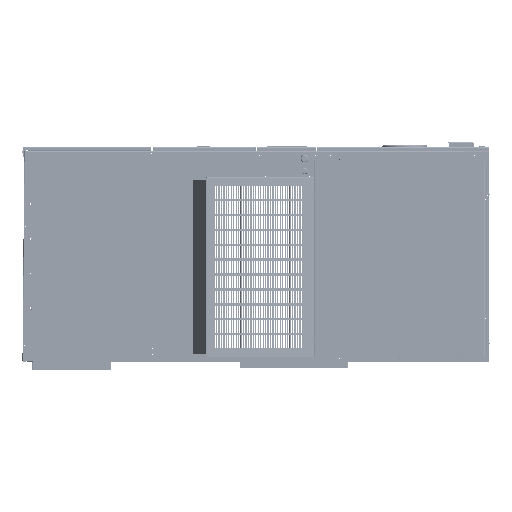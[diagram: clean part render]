
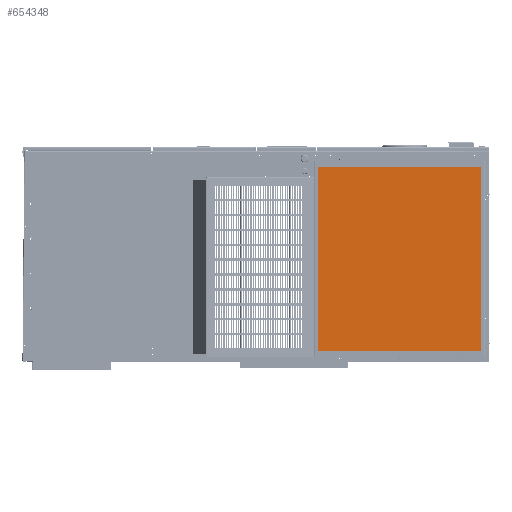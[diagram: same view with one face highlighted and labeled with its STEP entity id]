
A CAD part, left-side view. The second image highlights one B-rep face of the part: STEP entity #654348.
In plain terms, the highlighted planar face has unit normal (-1, 0, 0).
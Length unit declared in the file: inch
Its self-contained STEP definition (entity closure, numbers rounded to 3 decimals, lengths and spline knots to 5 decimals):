
#15878 = LINE ( 'NONE', #276098, #600855 ) ;
#37820 = ORIENTED_EDGE ( 'NONE', *, *, #840509, .T. ) ;
#43501 = VERTEX_POINT ( 'NONE', #778807 ) ;
#56737 = LINE ( 'NONE', #840631, #808231 ) ;
#60510 = VECTOR ( 'NONE', #170784, 39.37008 ) ;
#84921 = VERTEX_POINT ( 'NONE', #692544 ) ;
#90725 = CARTESIAN_POINT ( 'NONE',  ( -25.4955, 1.03785, 17.46232 ) ) ;
#109233 = DIRECTION ( 'NONE',  ( 0., 1., 0. ) ) ;
#119361 = DIRECTION ( 'NONE',  ( -1., 0., 0. ) ) ;
#131261 = AXIS2_PLACEMENT_3D ( 'NONE', #387804, #119361, #507146 ) ;
#143359 = EDGE_CURVE ( 'NONE', #326046, #84921, #56737, .T. ) ;
#168003 = EDGE_LOOP ( 'NONE', ( #37820, #778635, #716464, #399085 ) ) ;
#170784 = DIRECTION ( 'NONE',  ( 0., 0., 1. ) ) ;
#179051 = VECTOR ( 'NONE', #560999, 39.37008 ) ;
#237186 = CARTESIAN_POINT ( 'NONE',  ( -25.4955, 33.95736, 17.46232 ) ) ;
#249867 = CARTESIAN_POINT ( 'NONE',  ( -25.4955, 33.95736, -19.51268 ) ) ;
#252960 = DIRECTION ( 'NONE',  ( 0., 0., -1. ) ) ;
#276098 = CARTESIAN_POINT ( 'NONE',  ( -25.4955, 1.03785, 17.46232 ) ) ;
#326046 = VERTEX_POINT ( 'NONE', #237186 ) ;
#379475 = PLANE ( 'NONE',  #131261 ) ;
#387804 = CARTESIAN_POINT ( 'NONE',  ( -25.4955, 0.53785, -20.71268 ) ) ;
#399085 = ORIENTED_EDGE ( 'NONE', *, *, #143359, .T. ) ;
#447473 = FACE_OUTER_BOUND ( 'NONE', #168003, .T. ) ;
#507146 = DIRECTION ( 'NONE',  ( 0., 0., 1. ) ) ;
#560999 = DIRECTION ( 'NONE',  ( 0., -1., 0. ) ) ;
#562903 = LINE ( 'NONE', #754575, #60510 ) ;
#600855 = VECTOR ( 'NONE', #109233, 39.37008 ) ;
#654348 = ADVANCED_FACE ( 'NONE', ( #447473 ), #379475, .T. ) ;
#692544 = CARTESIAN_POINT ( 'NONE',  ( -25.4955, 33.95736, -19.51268 ) ) ;
#698209 = EDGE_CURVE ( 'NONE', #43501, #740645, #562903, .T. ) ;
#716464 = ORIENTED_EDGE ( 'NONE', *, *, #771043, .T. ) ;
#740645 = VERTEX_POINT ( 'NONE', #90725 ) ;
#754575 = CARTESIAN_POINT ( 'NONE',  ( -25.4955, 1.03785, -19.51268 ) ) ;
#765294 = LINE ( 'NONE', #249867, #179051 ) ;
#771043 = EDGE_CURVE ( 'NONE', #740645, #326046, #15878, .T. ) ;
#778635 = ORIENTED_EDGE ( 'NONE', *, *, #698209, .T. ) ;
#778807 = CARTESIAN_POINT ( 'NONE',  ( -25.4955, 1.03785, -19.51268 ) ) ;
#808231 = VECTOR ( 'NONE', #252960, 39.37008 ) ;
#840509 = EDGE_CURVE ( 'NONE', #84921, #43501, #765294, .T. ) ;
#840631 = CARTESIAN_POINT ( 'NONE',  ( -25.4955, 33.95736, 17.46232 ) ) ;
